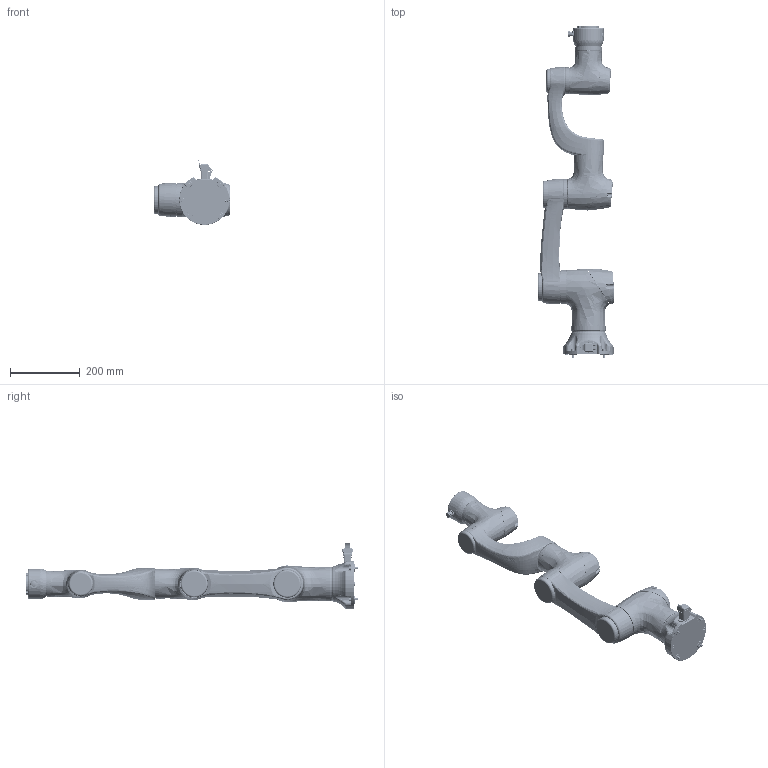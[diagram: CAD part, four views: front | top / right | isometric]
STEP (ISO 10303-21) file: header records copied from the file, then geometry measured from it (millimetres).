
FILE_DESCRIPTION (( 'STEP AP214' ), '1' );
FILE_NAME ('E03-IP66、压铸、总线末端机械手模型_20220707.STEP', '2022-07-28T10:56:13', ( '' ), ( '' ), 'SwSTEP 2.0', 'SolidWorks 2020', '' );
FILE_SCHEMA (( 'AUTOMOTIVE_DESIGN' ));
Length unit declared in the file: millimetre
Products named in the file (73): 12B2(2)^12B2-带蓝灯-IP67防水-自复红波按钮2; hexagon socket head cap screws gb_GB_FASTENER_SCREWS_HSHCS M3X25-N; 瑤脣蹟譫; Part28.1.1^12B2(2); Symmetry of Part5.1^12B2(2)_12B2-带蓝灯-IP67防水-自复红波按钮2; 14粣耀郪綴裔耀倰; Part7^12B2(2)_12B2-带蓝灯-IP67防水-自复红波按钮2; M3x20_20190806_1.1_CB3-14; Part22^12B2(2); 12B2(2); Part1^12B2(2); 1419713瑤脣裔; φ78X1 O型圈; Elfin_菁釱脣芛; Part5.1^12B2(2)_12B2-带蓝灯-IP67防水-自复红波按钮2; M3x28_CB3-16; Part28.1.1.1^12B2(2)_12B2-带蓝灯-IP67防水-自复红波按钮2; Part7.1^12B2(2); 14粣藺傷耀倰_IP66; Symmetry of Part5^12B2(2); M3x10_20190806_1.1_CB3-14; 17axial_module_妗极耀倰_20220705; 20模组后端盖模型_20220705_原始; Elfin_底座组件_插头卡环; M12金属按钮开关螺母; Part30^12B2(2)_12B2-带蓝灯-IP67防水-自复红波按钮2; E03狟旋耀倰_20220707; HREF-01-06-01-66A1 藺傷PC孺汃啣; hexagon socket head cap screws gb_GB_FASTENER_SCREWS_HSHCS M3X20-N; 5kg奻旋耜裔耀倰_20220706; hexagon socket head cap screws gb_GB_FASTENER_SCREWS_HSHCS M3X12-N; Part28.1.1.1^12B2(2); 5kg狟旋奻耜裔耀倰_20220706; 20axial_module_耀倰_20220705; Part13.1^12B2(2); Part16^12B2(2)_12B2-带蓝灯-IP67防水-自复红波按钮2; 14粣耀郪妗昜耀倰; Symmetry of Part5.1^12B2(2); 14轴末端转接块模型_20220707; 12B2-带蓝灯-IP67防水-自复红波按钮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
Assembly tree (83 placements, depth 5):
  E03-IP66、压铸、总线末端机械手模型_20220707
    E03菁釱郪璃耀倰_20220707
      Elfin_菁釱脣芛
        Elfin_菁釱郪璃_脣芛釱
        Elfin_菁釱郪璃_脣芛裔
        Elfin_底座组件_插头卡环
      HREF-01-03-284A 3kg菁釱YZ_滅惇
      GB／T70．1-2000内六角圆柱头螺钉M6×20  x4
    20axial_module_耀倰_20220705
      M3x20_20190806_1.1_CB3-14
      M3x10_20190806_1.1_CB3-14  x2
      hexagon socket head cap screws gb_GB_FASTENER_SCREWS_HSHCS M3X12-N
      20耀郪妗昜耀倰_20220705
      20模组后端盖模型_20220705_原始
    E03狟旋郪璃耀倰_20220707
      E03狟旋耀倰_20220707
      10kg奻旋耜裔耀倰_20220706
      5kg狟旋奻耜裔耀倰_20220706
    17axial_module_妗极耀倰_20220705
      hexagon socket head cap screws gb_GB_FASTENER_SCREWS_HSHCS M3X25-N
      hexagon socket head cap screws gb_GB_FASTENER_SCREWS_HSHCS M3X20-N  x3
      17粣耀郪妗极耀倰
      17模组后端盖模型_20220706_增加锥形孔
    E03奻旋郪璃耀倰_20220707
      E03奻旋耀倰_20220707
      5kg奻旋耜裔耀倰_20220706
    14axial_module_ 耀倰_20220706
      hexagon socket head cap screws gb_GB_FASTENER_SCREWS_HSHCS M3X20-N
      M3x28_CB3-16
      14粣耀郪妗昜耀倰
      14粣耀郪綴裔耀倰
    14粣藺傷耀倰_IP66
      5-10kg藺傷俋褲耀倰_IP66
      1419713
      12B2-带蓝灯-IP67防水-自复红波按钮
        12B2(2)
          Part7^12B2(2)
          Part5^12B2(2)
          Part5.1^12B2(2)
          Symmetry of Part5^12B2(2)
          Symmetry of Part5.1^12B2(2)
          Part13.1.2^12B2(2)
          Part30^12B2(2)
          Part13.1^12B2(2)
          Part6^12B2(2)
          Part28.1.1^12B2(2)
          Part1^12B2(2)
          Part7.1^12B2(2)
          Part16^12B2(2)
          Part22^12B2(2)
          Part28.1.1.1^12B2(2)
          M12金属按钮开关螺母
      12B2(2)^12B2-带蓝灯-IP67防水-自复红波按钮2
        Part7^12B2(2)_12B2-带蓝灯-IP67防水-自复红波按钮2
        Part5^12B2(2)_12B2-带蓝灯-IP67防水-自复红波按钮2
        Part5.1^12B2(2)_12B2-带蓝灯-IP67防水-自复红波按钮2
        Symmetry of Part5^12B2(2)_12B2-带蓝灯-IP67防水-自复红波按钮2
        Symmetry of Part5.1^12B2(2)_12B2-带蓝灯-IP67防水-自复红波按钮2
        Part13.1.2^12B2(2)_12B2-带蓝灯-IP67防水-自复红波按钮2
        Part30^12B2(2)_12B2-带蓝灯-IP67防水-自复红波按钮2
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Bounding box: 219.94 x 948.7 x 188.71 mm (x, y, z)
Volume: 7926599.8 mm3; surface area: 836325.7 mm2
Topology: 77 solids, 80 shells, 6018 faces, 15372 edges, 9561 vertices
Faces by surface type: plane 2424, bspline 1463, cylinder 1112, cone 600, torus 392, sphere 27
Entity records: 382061 total; most frequent: CARTESIAN_POINT 246463, ORIENTED_EDGE 29276, DIRECTION 22794, EDGE_CURVE 14638, VERTEX_POINT 9209, AXIS2_PLACEMENT_3D 8108, LINE 6578, VECTOR 6578
